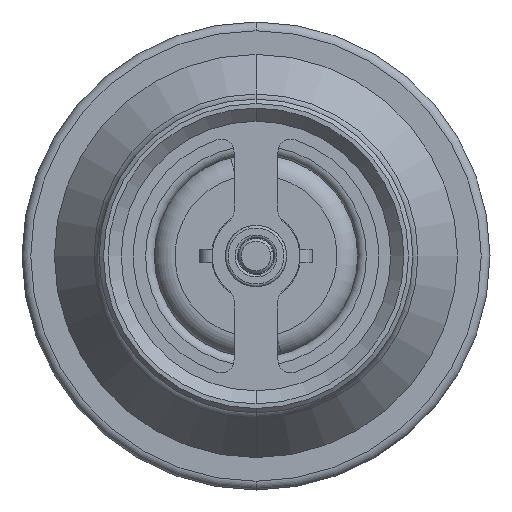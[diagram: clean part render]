
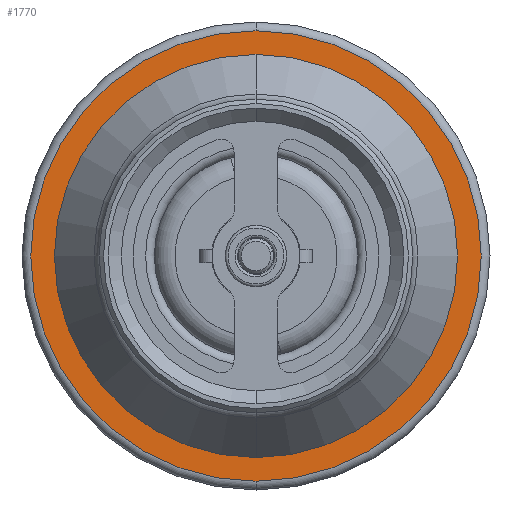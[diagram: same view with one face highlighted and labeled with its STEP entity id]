
A CAD part, front view. The second image highlights one B-rep face of the part: STEP entity #1770.
In plain terms, the highlighted planar face has unit normal (0, -1, 0).
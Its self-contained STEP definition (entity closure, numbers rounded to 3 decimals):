
#246 = FACE_OUTER_BOUND ( 'NONE', #14874, .T. ) ;
#329 = PLANE ( 'NONE',  #11014 ) ;
#699 = EDGE_LOOP ( 'NONE', ( #8729, #15786 ) ) ;
#842 = CIRCLE ( 'NONE', #3531, 19. ) ;
#1644 = ORIENTED_EDGE ( 'NONE', *, *, #10144, .T. ) ;
#1770 = ADVANCED_FACE ( 'NONE', ( #246, #2244 ), #329, .T. ) ;
#2244 = FACE_BOUND ( 'NONE', #699, .T. ) ;
#2911 = DIRECTION ( 'NONE',  ( 0., 0., -1. ) ) ;
#3198 = DIRECTION ( 'NONE',  ( 0., -1., 0. ) ) ;
#3224 = DIRECTION ( 'NONE',  ( 0., 0., -1. ) ) ;
#3519 = DIRECTION ( 'NONE',  ( 0., -1., 0. ) ) ;
#3531 = AXIS2_PLACEMENT_3D ( 'NONE', #6557, #3519, #17894 ) ;
#3552 = CIRCLE ( 'NONE', #5135, 25.7 ) ;
#5135 = AXIS2_PLACEMENT_3D ( 'NONE', #16093, #3198, #11662 ) ;
#5741 = DIRECTION ( 'NONE',  ( 0., -1., 0. ) ) ;
#6557 = CARTESIAN_POINT ( 'NONE',  ( 0., 3., 0. ) ) ;
#6578 = DIRECTION ( 'NONE',  ( 0., -1., 0. ) ) ;
#8211 = EDGE_CURVE ( 'NONE', #18260, #12722, #8273, .T. ) ;
#8273 = CIRCLE ( 'NONE', #9518, 19. ) ;
#8308 = AXIS2_PLACEMENT_3D ( 'NONE', #10863, #6578, #13891 ) ;
#8729 = ORIENTED_EDGE ( 'NONE', *, *, #16154, .F. ) ;
#8956 = VERTEX_POINT ( 'NONE', #16807 ) ;
#9097 = CARTESIAN_POINT ( 'NONE',  ( 0., 3., 19. ) ) ;
#9518 = AXIS2_PLACEMENT_3D ( 'NONE', #12323, #5741, #2911 ) ;
#10144 = EDGE_CURVE ( 'NONE', #16433, #8956, #3552, .T. ) ;
#10239 = CIRCLE ( 'NONE', #8308, 25.7 ) ;
#10863 = CARTESIAN_POINT ( 'NONE',  ( 0., 3., 0. ) ) ;
#11014 = AXIS2_PLACEMENT_3D ( 'NONE', #17553, #11816, #3224 ) ;
#11662 = DIRECTION ( 'NONE',  ( 0., 0., -1. ) ) ;
#11816 = DIRECTION ( 'NONE',  ( 0., -1., 0. ) ) ;
#11962 = EDGE_CURVE ( 'NONE', #8956, #16433, #10239, .T. ) ;
#12323 = CARTESIAN_POINT ( 'NONE',  ( 0., 3., 0. ) ) ;
#12722 = VERTEX_POINT ( 'NONE', #17413 ) ;
#13891 = DIRECTION ( 'NONE',  ( 0., 0., -1. ) ) ;
#14874 = EDGE_LOOP ( 'NONE', ( #16966, #1644 ) ) ;
#15634 = CARTESIAN_POINT ( 'NONE',  ( 0., 3., 25.7 ) ) ;
#15786 = ORIENTED_EDGE ( 'NONE', *, *, #8211, .F. ) ;
#16093 = CARTESIAN_POINT ( 'NONE',  ( 0., 3., 0. ) ) ;
#16154 = EDGE_CURVE ( 'NONE', #12722, #18260, #842, .T. ) ;
#16433 = VERTEX_POINT ( 'NONE', #15634 ) ;
#16807 = CARTESIAN_POINT ( 'NONE',  ( 0., 3., -25.7 ) ) ;
#16966 = ORIENTED_EDGE ( 'NONE', *, *, #11962, .T. ) ;
#17413 = CARTESIAN_POINT ( 'NONE',  ( 0., 3., -19. ) ) ;
#17553 = CARTESIAN_POINT ( 'NONE',  ( 19., 3., 0. ) ) ;
#17894 = DIRECTION ( 'NONE',  ( 0., 0., -1. ) ) ;
#18260 = VERTEX_POINT ( 'NONE', #9097 ) ;
